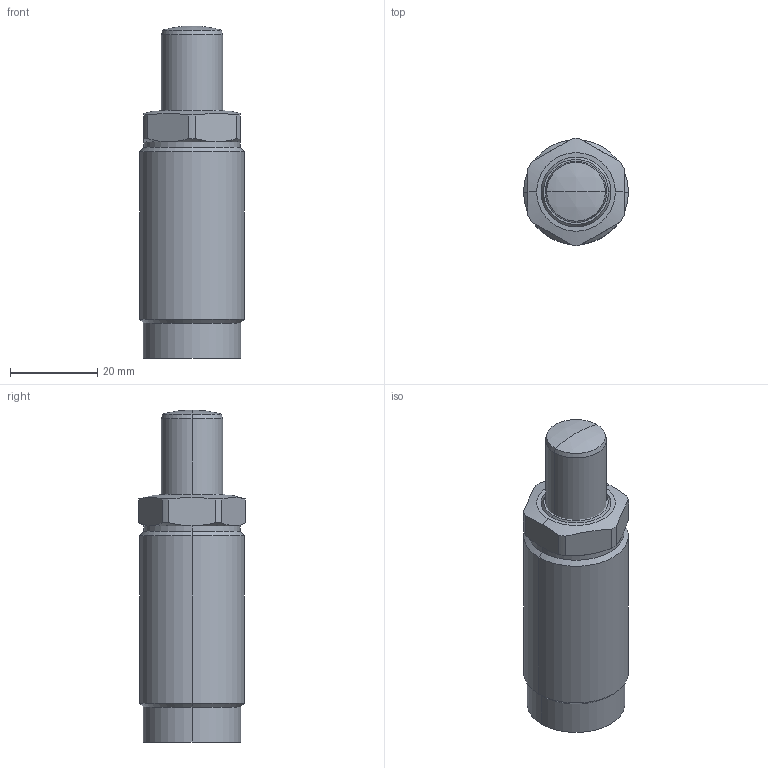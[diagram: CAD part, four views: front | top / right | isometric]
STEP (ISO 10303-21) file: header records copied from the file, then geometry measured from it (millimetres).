
FILE_DESCRIPTION (( 'STEP AP203' ), '1' );
FILE_NAME ('650241-RL.step', '2016-11-02T03:13:56', ( 'wxp' ), ( '' ), 'SwSTEP 2.0', 'SolidWorks 2011', '' );
FILE_SCHEMA (( 'CONFIG_CONTROL_DESIGN' ));
Length unit declared in the file: millimetre
Products named in the file (3): 650241-RL; 葩璃 650241-RL.sldasm-Part-2^650241-RL; 葩璃650241-RL.sldasm-Part-1^650241-RL
Assembly tree (2 placements, depth 2):
  650241-RL
    葩璃650241-RL.sldasm-Part-1^650241-RL
    葩璃 650241-RL.sldasm-Part-2^650241-RL
Bounding box: 24 x 24.49 x 76 mm (x, y, z)
Volume: 27707.7 mm3; surface area: 6572.7 mm2
Topology: 2 solids, 2 shells, 67 faces, 144 edges, 86 vertices
Faces by surface type: cylinder 26, cone 18, plane 15, torus 6, sphere 2
Entity records: 2167 total; most frequent: CARTESIAN_POINT 396, DIRECTION 344, ORIENTED_EDGE 284, AXIS2_PLACEMENT_3D 150, EDGE_CURVE 142, VERTEX_POINT 86, CIRCLE 78, EDGE_LOOP 74
